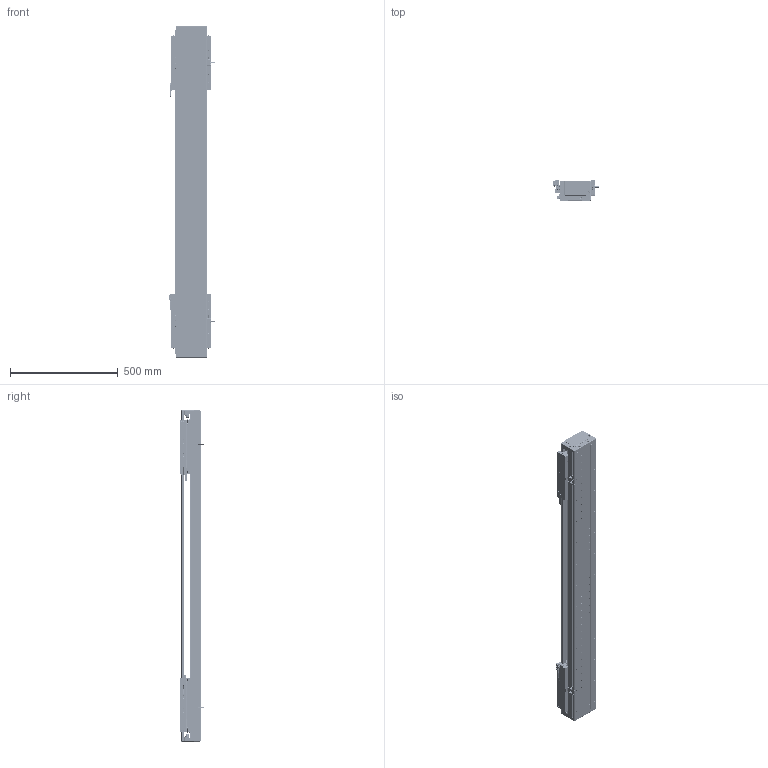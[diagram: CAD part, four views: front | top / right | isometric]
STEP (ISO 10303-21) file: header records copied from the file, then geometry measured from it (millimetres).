
FILE_DESCRIPTION (( 'STEP AP203' ), '1' );
FILE_NAME ('DA-C145-2-C3-T920-C010-0.2 眻盄萇儂.STEP', '2025-08-13T10:18:03', ( '' ), ( '' ), 'SwSTEP 2.0', 'SolidWorks 2019', '' );
FILE_SCHEMA (( 'CONFIG_CONTROL_DESIGN' ));
Length unit declared in the file: millimetre
Products named in the file (35): 葩璃 DA145-C3-DP-B-00 菜えB^CU145-W 幗紩賑怢; 葩璃 DA145-DG-H-N-00 傷裔^DA-C145-2-C3-T-C010-0.2; CU145-W 幗紩賑怢-1; 复件 半圆头内六角螺钉 M3×6^CU145-W 滚珠滑台; 葩璃 PM-T45^DA-C145-2-C3-T-C010-0.2; CU145-W-00 珨极趙賑雄怢啣; TAY01-M8; IU-CU145-L 菁釱絳寢; 葩璃 CKMA01-W060-TRL^DA-C145-2-C3-T-C010-0.2; DA-C145-2-C3-T920-C010-0.2 眻盄萇儂; 复件 DA145-C3-DK-00 挡块^CU145-W 滚珠滑台; 葩璃 CKM03-W060-C1C2-TP-0.2^DA-C145-2-C3-T-C010-0.2; IU-CU145-L-00 菁釱(L1500); 葩璃 PM-Y65^DA-C145-2-C3-T-C010-0.2; 复件 DA95-MFP-01 密封片^CU145-W 滚珠滑台; 复件 纯铜油杯 6x6mm^CU145-W 滚珠滑台; DKW-KGZ-ZJ-00 中间光电开关支架; 复件 内六角平端紧定螺钉 GB.T77-2000 M5×10^CU145-W 滚珠滑台; DKW-GYP-ZJ-00 笢潔嫖萇覜茼え; 葩璃 DA145-C3-DP-A-00 菜えA^CU145-W 幗紩賑怢; DKW168-HXJ-ZJ-00 笢潔滅袉砎蝶; 复件 DA145-C3-YB-B-00 压板B^CU145-W 滚珠滑台; 复件 DA95-HK-GT-00 滑块钢轨^CU145-W-00 一体化滑动台板; 复件 DA95-DB-00  挡板^CU145-W 滚珠滑台; 复件 DA145-C3-YB-A-00 压板A^CU145-W 滚珠滑台; 葩璃 DMA-010-0.2 黍杅芛^DA-C145-2-C3-T-C010-0.2; CU145-W-00 珨极趙賑雄怢啣-1; CU145-W 幗紩賑怢; 葩璃 鞠褒情蹟譫 M3^DA-C145-2-C3-T-C010-0.2; 葩璃 DA95-HXJ-00 遣喳砎蝶^DA-C145-2-C3-T-C010-0.2; 葩璃 XD-U-02L 棠掑喜^DA-C145-2-C3-T-C010-0.2; 葩璃 DA95-GT-T-00^IU-CU145-L 菁釱絳寢; 66245-CU145-HT-W-00 賑雄怢啣(3D芞祧)(00); 葩璃 DA145-T-003-00 裔啣^DA-C145-2-C3-T-C010-0.2; 复件 DA145-GYP-00 光电感应片^DA-C145-2-C3-T-C010-0.2
Assembly tree (175 placements, depth 4):
  DA-C145-2-C3-T920-C010-0.2 眻盄萇儂
    IU-CU145-L 菁釱絳寢
      IU-CU145-L-00 菁釱(L1500)
      葩璃 DA95-GT-T-00^IU-CU145-L 菁釱絳寢  x4
    CU145-W 幗紩賑怢
      CU145-W-00 珨极趙賑雄怢啣
        66245-CU145-HT-W-00 賑雄怢啣(3D芞祧)(00)
        复件 DA95-HK-GT-00 滑块钢轨^CU145-W-00 一体化滑动台板  x8
      复件 DA95-MFP-01 密封片^CU145-W 滚珠滑台  x8
      复件 DA95-DB-00  挡板^CU145-W 滚珠滑台  x8
      复件 内六角平端紧定螺钉 GB.T77-2000 M5×10^CU145-W 滚珠滑台  x4
      复件 纯铜油杯 6x6mm^CU145-W 滚珠滑台  x4
      复件 半圆头内六角螺钉 M3×6^CU145-W 滚珠滑台  x16
      复件 DA145-C3-DK-00 挡块^CU145-W 滚珠滑台  x4
      葩璃 DA145-C3-DP-B-00 菜えB^CU145-W 幗紩賑怢  x2
      复件 DA145-C3-YB-B-00 压板B^CU145-W 滚珠滑台  x2
      葩璃 DA145-C3-DP-A-00 菜えA^CU145-W 幗紩賑怢  x3
      复件 DA145-C3-YB-A-00 压板A^CU145-W 滚珠滑台  x3
      TAY01-M8  x4
    CU145-W 幗紩賑怢-1
      CU145-W-00 珨极趙賑雄怢啣-1
        66245-CU145-HT-W-00 賑雄怢啣(3D芞祧)(00)
        复件 DA95-HK-GT-00 滑块钢轨^CU145-W-00 一体化滑动台板  x8
      复件 DA95-MFP-01 密封片^CU145-W 滚珠滑台  x8
      复件 DA95-DB-00  挡板^CU145-W 滚珠滑台  x8
      复件 内六角平端紧定螺钉 GB.T77-2000 M5×10^CU145-W 滚珠滑台  x4
      复件 纯铜油杯 6x6mm^CU145-W 滚珠滑台  x4
      复件 半圆头内六角螺钉 M3×6^CU145-W 滚珠滑台  x16
      复件 DA145-C3-DK-00 挡块^CU145-W 滚珠滑台  x4
      葩璃 DA145-C3-DP-B-00 菜えB^CU145-W 幗紩賑怢  x2
      复件 DA145-C3-YB-B-00 压板B^CU145-W 滚珠滑台  x2
      葩璃 DA145-C3-DP-A-00 菜えA^CU145-W 幗紩賑怢  x3
      复件 DA145-C3-YB-A-00 压板A^CU145-W 滚珠滑台  x3
      TAY01-M8  x4
    葩璃 CKMA01-W060-TRL^DA-C145-2-C3-T-C010-0.2
    葩璃 PM-T45^DA-C145-2-C3-T-C010-0.2  x4
    葩璃 XD-U-02L 棠掑喜^DA-C145-2-C3-T-C010-0.2
    葩璃 DA145-DG-H-N-00 傷裔^DA-C145-2-C3-T-C010-0.2  x2
    葩璃 DA145-T-003-00 裔啣^DA-C145-2-C3-T-C010-0.2
    葩璃 DA95-HXJ-00 遣喳砎蝶^DA-C145-2-C3-T-C010-0.2  x4
    葩璃 CKM03-W060-C1C2-TP-0.2^DA-C145-2-C3-T-C010-0.2  x2
    葩璃 DMA-010-0.2 黍杅芛^DA-C145-2-C3-T-C010-0.2  x2
    复件 DA145-GYP-00 光电感应片^DA-C145-2-C3-T-C010-0.2  x2
    DKW-GYP-ZJ-00 笢潔嫖萇覜茼え
    DKW-KGZ-ZJ-00 中间光电开关支架
    葩璃 PM-Y65^DA-C145-2-C3-T-C010-0.2
    葩璃 鞠褒情蹟譫 M3^DA-C145-2-C3-T-C010-0.2  x8
    DKW168-HXJ-ZJ-00 笢潔滅袉砎蝶
Bounding box: 213.7 x 108.45 x 1540 mm (x, y, z)
Volume: 11057918 mm3; surface area: 3166226 mm2
Topology: 171 solids, 235 shells, 7065 faces, 18556 edges, 11403 vertices
Faces by surface type: plane 2938, cylinder 2839, cone 1120, torus 152, sphere 8, bspline 8
Entity records: 115431 total; most frequent: CARTESIAN_POINT 30146, ORIENTED_EDGE 16276, DIRECTION 16123, EDGE_CURVE 8138, AXIS2_PLACEMENT_3D 5869, VERTEX_POINT 5252, VECTOR 4385, LINE 4385
